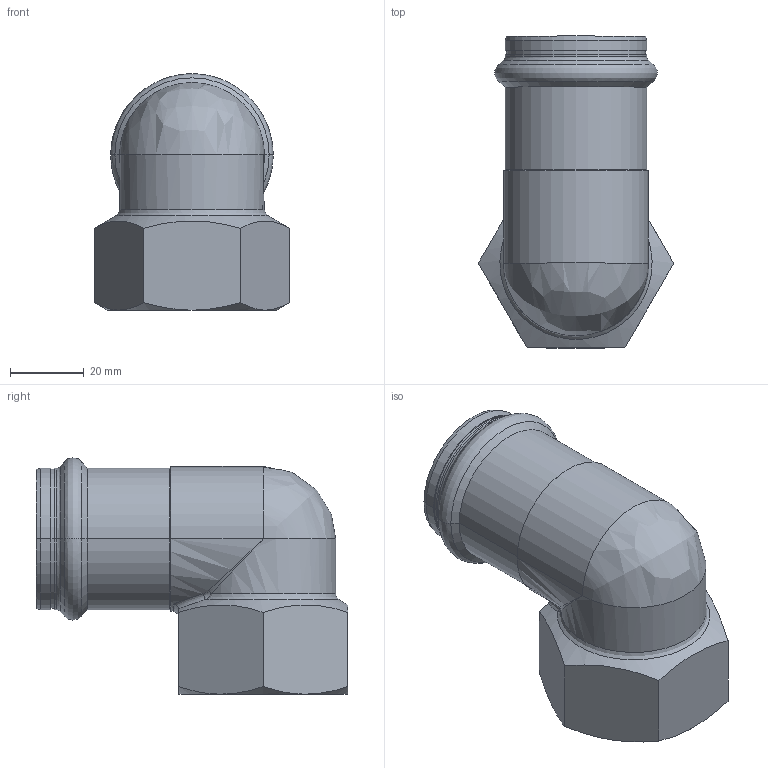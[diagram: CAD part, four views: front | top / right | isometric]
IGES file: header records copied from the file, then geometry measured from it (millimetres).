
Start section: Elysium IGES Interface
Global section: file name: F:\3d modellen sudo\S-Pr VP\SP6090GV\6090GVW35114.igs; native system: CoCreate Modeling 17.00A  17-Jun-2010; preprocessor: CoCreate IGES_3D V2.2; author: Unknown; organization: Unknown; date: 20130128.100731; units: millimetre
Bounding box: 53.12 x 84.7 x 64.25 mm (x, y, z)
Volume: 39091.3 mm3; surface area: 26552.8 mm2
Topology: 1 solids, 1 shells, 82 faces, 187 edges, 102 vertices
Faces by surface type: bspline 82
